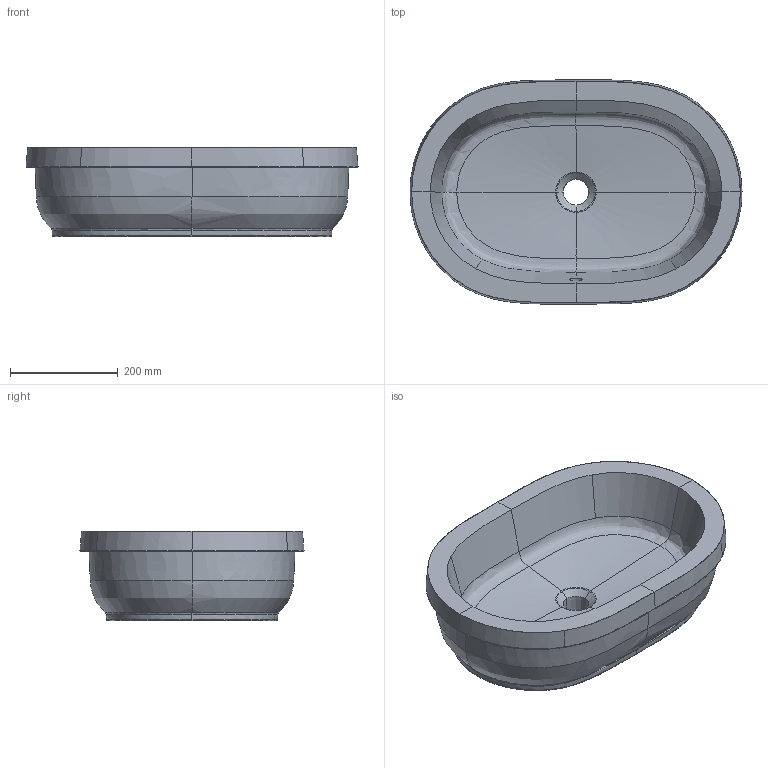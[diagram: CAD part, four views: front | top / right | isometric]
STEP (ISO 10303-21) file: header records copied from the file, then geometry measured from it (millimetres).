
FILE_DESCRIPTION(/* description */ (''),/* implementation_level */ '2;1');
FILE_NAME(/* name */ '417660_Matix_Oval_UWT.stp',/* time_stamp */ '2019-02-18T13:07:33+01:00',/* author */ (''),/* organization */ (''),/* preprocessor_version */ 'ST-DEVELOPER v16',/* originating_system */ 'SIEMENS PLM Software NX 10.0',/* authorisation */ '');
FILE_SCHEMA (('AUTOMOTIVE_DESIGN { 1 0 10303 214 3 1 1 1 }'));
Length unit declared in the file: millimetre
Products named in the file (1): math227069EC3ylj
Bounding box: 614.93 x 415.02 x 165 mm (x, y, z)
Volume: 15200981.3 mm3; surface area: 761009.3 mm2
Topology: 1 solids, 1 shells, 84 faces, 236 edges, 150 vertices
Faces by surface type: bspline 71, plane 8, extrusion 4, cylinder 1
Full cylindrical faces by diameter (mm): 24 x1
Entity records: 13708 total; most frequent: CARTESIAN_POINT 12155, ORIENTED_EDGE 462, EDGE_CURVE 231, VERTEX_POINT 150, B_SPLINE_CURVE_WITH_KNOTS 148, DIRECTION 98, EDGE_LOOP 87, ADVANCED_FACE 84
